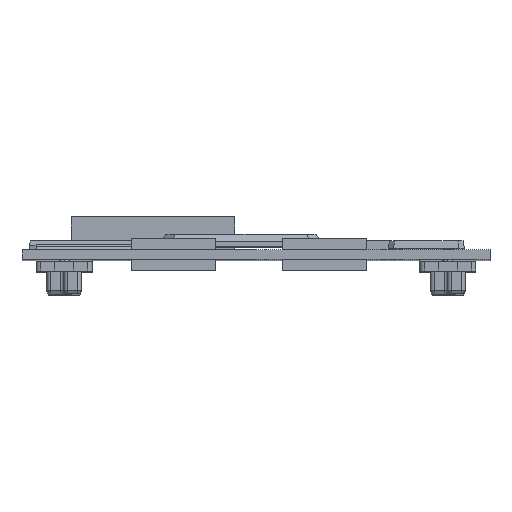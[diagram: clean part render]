
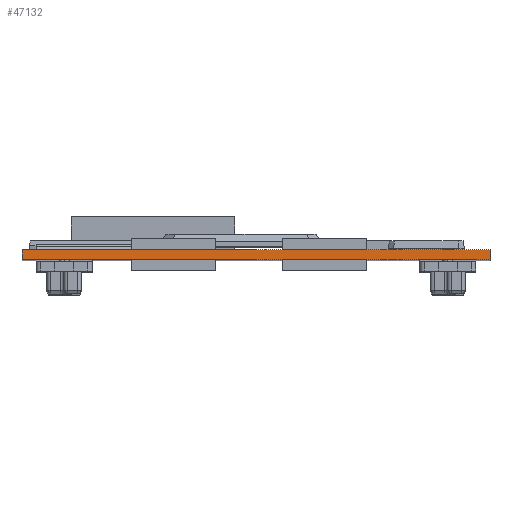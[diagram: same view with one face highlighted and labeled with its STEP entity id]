
A CAD part, top view. The second image highlights one B-rep face of the part: STEP entity #47132.
In plain terms, the highlighted planar face has unit normal (0, 0, 1).
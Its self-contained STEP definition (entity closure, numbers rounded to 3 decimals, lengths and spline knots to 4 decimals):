
#17=DIRECTION('',(1.,0.,0.));
#18=VECTOR('',#17,1.969);
#19=CARTESIAN_POINT('',(-0.9848,0.,1.6142));
#20=LINE('',#19,#18);
#5933=DIRECTION('',(0.,1.,0.));
#5934=VECTOR('',#5933,0.04);
#5935=CARTESIAN_POINT('',(0.9843,0.,1.6142));
#5936=LINE('',#5935,#5934);
#5937=DIRECTION('',(0.,1.,0.));
#5938=VECTOR('',#5937,0.04);
#5939=CARTESIAN_POINT('',(-0.9848,0.,1.6142));
#5940=LINE('',#5939,#5938);
#5953=DIRECTION('',(1.,0.,0.));
#5954=VECTOR('',#5953,1.969);
#5955=CARTESIAN_POINT('',(-0.9848,0.04,1.6142));
#5956=LINE('',#5955,#5954);
#32755=CARTESIAN_POINT('',(-0.9848,0.,1.6142));
#32756=VERTEX_POINT('',#32755);
#32757=CARTESIAN_POINT('',(0.9843,0.,1.6142));
#32758=VERTEX_POINT('',#32757);
#32763=CARTESIAN_POINT('',(-0.9848,0.04,1.6142));
#32764=VERTEX_POINT('',#32763);
#32765=CARTESIAN_POINT('',(0.9843,0.04,1.6142));
#32766=VERTEX_POINT('',#32765);
#47119=CARTESIAN_POINT('',(-0.9848,0.,1.6142));
#47120=DIRECTION('',(0.,0.,1.));
#47121=DIRECTION('',(1.,0.,0.));
#47122=AXIS2_PLACEMENT_3D('',#47119,#47120,#47121);
#47123=PLANE('',#47122);
#47124=ORIENTED_EDGE('',*,*,#43398,.F.);
#47126=ORIENTED_EDGE('',*,*,#47125,.T.);
#47128=ORIENTED_EDGE('',*,*,#47127,.T.);
#47129=ORIENTED_EDGE('',*,*,#47111,.F.);
#47130=EDGE_LOOP('',(#47124,#47126,#47128,#47129));
#47131=FACE_OUTER_BOUND('',#47130,.F.);
#43398=EDGE_CURVE('',#32756,#32758,#20,.T.);
#47111=EDGE_CURVE('',#32758,#32766,#5936,.T.);
#47125=EDGE_CURVE('',#32756,#32764,#5940,.T.);
#47127=EDGE_CURVE('',#32764,#32766,#5956,.T.);
#47132=ADVANCED_FACE('',(#47131),#47123,.T.);
